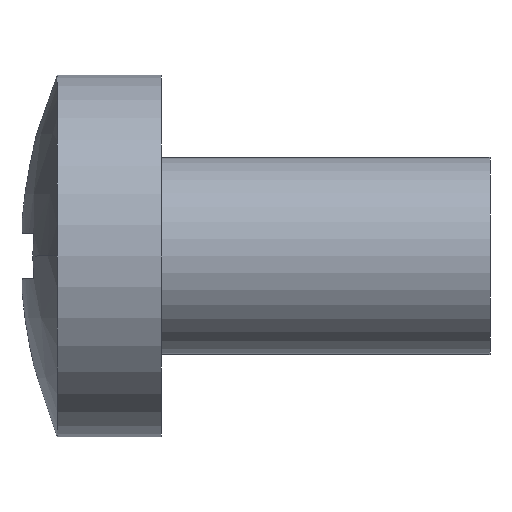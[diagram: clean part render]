
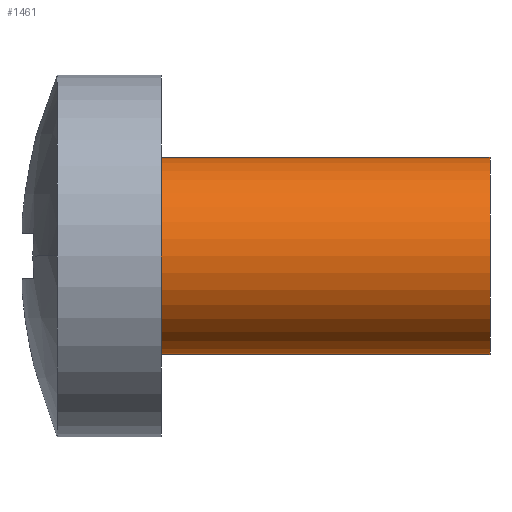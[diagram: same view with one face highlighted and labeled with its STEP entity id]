
A CAD part, front view. The second image highlights one B-rep face of the part: STEP entity #1461.
In plain terms, the highlighted cylindrical face has radius 1.5 mm (diameter 3 mm), a partial arc.
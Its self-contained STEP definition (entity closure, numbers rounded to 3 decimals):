
#124 = PLANE('',#125);
#125 = AXIS2_PLACEMENT_3D('',#126,#127,#128);
#126 = CARTESIAN_POINT('',(2.15,1.8,0.));
#127 = DIRECTION('',(1.,0.,-0.));
#128 = DIRECTION('',(-0.,0.,-1.));
#212 = VERTEX_POINT('',#213);
#213 = CARTESIAN_POINT('',(2.15,0.,-1.5));
#214 = VERTEX_POINT('',#215);
#215 = CARTESIAN_POINT('',(2.15,0.,1.5));
#223 = CYLINDRICAL_SURFACE('',#224,1.5);
#224 = AXIS2_PLACEMENT_3D('',#225,#226,#227);
#225 = CARTESIAN_POINT('',(4.516,0.,0.));
#226 = DIRECTION('',(1.,-0.,-0.));
#227 = DIRECTION('',(0.,0.,-1.));
#242 = EDGE_CURVE('',#214,#243,#245,.T.);
#243 = VERTEX_POINT('',#244);
#244 = CARTESIAN_POINT('',(7.15,0.,1.5));
#245 = SURFACE_CURVE('',#246,(#250,#257),.PCURVE_S1.);
#246 = LINE('',#247,#248);
#247 = CARTESIAN_POINT('',(4.516,0.,1.5));
#248 = VECTOR('',#249,1.);
#249 = DIRECTION('',(1.,-0.,-0.));
#250 = PCURVE('',#223,#251);
#251 = DEFINITIONAL_REPRESENTATION('',(#252),#256);
#252 = LINE('',#253,#254);
#253 = CARTESIAN_POINT('',(3.142,0.));
#254 = VECTOR('',#255,1.);
#255 = DIRECTION('',(0.,1.));
#256 = ( GEOMETRIC_REPRESENTATION_CONTEXT(2) 
PARAMETRIC_REPRESENTATION_CONTEXT() REPRESENTATION_CONTEXT('2D SPACE',''
  ) );
#257 = PCURVE('',#258,#263);
#258 = CYLINDRICAL_SURFACE('',#259,1.5);
#259 = AXIS2_PLACEMENT_3D('',#260,#261,#262);
#260 = CARTESIAN_POINT('',(4.516,0.,0.));
#261 = DIRECTION('',(1.,-0.,-0.));
#262 = DIRECTION('',(0.,0.,-1.));
#263 = DEFINITIONAL_REPRESENTATION('',(#264),#268);
#264 = LINE('',#265,#266);
#265 = CARTESIAN_POINT('',(3.142,0.));
#266 = VECTOR('',#267,1.);
#267 = DIRECTION('',(0.,1.));
#268 = ( GEOMETRIC_REPRESENTATION_CONTEXT(2) 
PARAMETRIC_REPRESENTATION_CONTEXT() REPRESENTATION_CONTEXT('2D SPACE',''
  ) );
#271 = VERTEX_POINT('',#272);
#272 = CARTESIAN_POINT('',(7.15,0.,-1.5));
#287 = PLANE('',#288);
#288 = AXIS2_PLACEMENT_3D('',#289,#290,#291);
#289 = CARTESIAN_POINT('',(7.15,1.5,0.));
#290 = DIRECTION('',(1.,0.,-0.));
#291 = DIRECTION('',(-0.,0.,-1.));
#299 = EDGE_CURVE('',#212,#271,#300,.T.);
#300 = SURFACE_CURVE('',#301,(#305,#312),.PCURVE_S1.);
#301 = LINE('',#302,#303);
#302 = CARTESIAN_POINT('',(4.516,0.,-1.5));
#303 = VECTOR('',#304,1.);
#304 = DIRECTION('',(1.,-0.,-0.));
#305 = PCURVE('',#223,#306);
#306 = DEFINITIONAL_REPRESENTATION('',(#307),#311);
#307 = LINE('',#308,#309);
#308 = CARTESIAN_POINT('',(0.,0.));
#309 = VECTOR('',#310,1.);
#310 = DIRECTION('',(0.,1.));
#311 = ( GEOMETRIC_REPRESENTATION_CONTEXT(2) 
PARAMETRIC_REPRESENTATION_CONTEXT() REPRESENTATION_CONTEXT('2D SPACE',''
  ) );
#312 = PCURVE('',#258,#313);
#313 = DEFINITIONAL_REPRESENTATION('',(#314),#318);
#314 = LINE('',#315,#316);
#315 = CARTESIAN_POINT('',(6.283,0.));
#316 = VECTOR('',#317,1.);
#317 = DIRECTION('',(0.,1.));
#318 = ( GEOMETRIC_REPRESENTATION_CONTEXT(2) 
PARAMETRIC_REPRESENTATION_CONTEXT() REPRESENTATION_CONTEXT('2D SPACE',''
  ) );
#1440 = EDGE_CURVE('',#243,#271,#1441,.T.);
#1441 = SURFACE_CURVE('',#1442,(#1447,#1454),.PCURVE_S1.);
#1442 = CIRCLE('',#1443,1.5);
#1443 = AXIS2_PLACEMENT_3D('',#1444,#1445,#1446);
#1444 = CARTESIAN_POINT('',(7.15,0.,0.));
#1445 = DIRECTION('',(1.,-0.,0.));
#1446 = DIRECTION('',(0.,0.,-1.));
#1447 = PCURVE('',#287,#1448);
#1448 = DEFINITIONAL_REPRESENTATION('',(#1449),#1453);
#1449 = CIRCLE('',#1450,1.5);
#1450 = AXIS2_PLACEMENT_2D('',#1451,#1452);
#1451 = CARTESIAN_POINT('',(0.,-1.5));
#1452 = DIRECTION('',(1.,0.));
#1453 = ( GEOMETRIC_REPRESENTATION_CONTEXT(2) 
PARAMETRIC_REPRESENTATION_CONTEXT() REPRESENTATION_CONTEXT('2D SPACE',''
  ) );
#1454 = PCURVE('',#258,#1455);
#1455 = DEFINITIONAL_REPRESENTATION('',(#1456),#1460);
#1456 = LINE('',#1457,#1458);
#1457 = CARTESIAN_POINT('',(0.,2.634));
#1458 = VECTOR('',#1459,1.);
#1459 = DIRECTION('',(1.,0.));
#1460 = ( GEOMETRIC_REPRESENTATION_CONTEXT(2) 
PARAMETRIC_REPRESENTATION_CONTEXT() REPRESENTATION_CONTEXT('2D SPACE',''
  ) );
#1461 = ADVANCED_FACE('',(#1462),#258,.T.);
#1462 = FACE_BOUND('',#1463,.T.);
#1463 = EDGE_LOOP('',(#1464,#1465,#1487,#1488));
#1464 = ORIENTED_EDGE('',*,*,#242,.F.);
#1465 = ORIENTED_EDGE('',*,*,#1466,.T.);
#1466 = EDGE_CURVE('',#214,#212,#1467,.T.);
#1467 = SURFACE_CURVE('',#1468,(#1473,#1480),.PCURVE_S1.);
#1468 = CIRCLE('',#1469,1.5);
#1469 = AXIS2_PLACEMENT_3D('',#1470,#1471,#1472);
#1470 = CARTESIAN_POINT('',(2.15,0.,0.));
#1471 = DIRECTION('',(1.,-0.,0.));
#1472 = DIRECTION('',(0.,0.,-1.));
#1473 = PCURVE('',#258,#1474);
#1474 = DEFINITIONAL_REPRESENTATION('',(#1475),#1479);
#1475 = LINE('',#1476,#1477);
#1476 = CARTESIAN_POINT('',(0.,-2.366));
#1477 = VECTOR('',#1478,1.);
#1478 = DIRECTION('',(1.,0.));
#1479 = ( GEOMETRIC_REPRESENTATION_CONTEXT(2) 
PARAMETRIC_REPRESENTATION_CONTEXT() REPRESENTATION_CONTEXT('2D SPACE',''
  ) );
#1480 = PCURVE('',#124,#1481);
#1481 = DEFINITIONAL_REPRESENTATION('',(#1482),#1486);
#1482 = CIRCLE('',#1483,1.5);
#1483 = AXIS2_PLACEMENT_2D('',#1484,#1485);
#1484 = CARTESIAN_POINT('',(0.,-1.8));
#1485 = DIRECTION('',(1.,0.));
#1486 = ( GEOMETRIC_REPRESENTATION_CONTEXT(2) 
PARAMETRIC_REPRESENTATION_CONTEXT() REPRESENTATION_CONTEXT('2D SPACE',''
  ) );
#1487 = ORIENTED_EDGE('',*,*,#299,.T.);
#1488 = ORIENTED_EDGE('',*,*,#1440,.F.);
